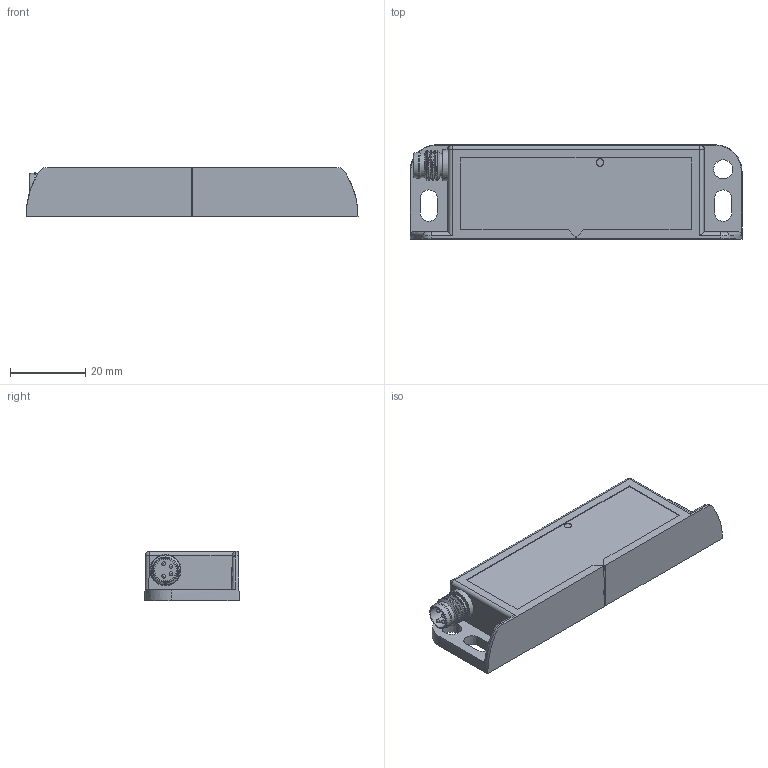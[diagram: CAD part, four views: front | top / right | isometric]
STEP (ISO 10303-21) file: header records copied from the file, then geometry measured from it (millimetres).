
FILE_DESCRIPTION(/* description */ (''),/* implementation_level */ '2;1');
FILE_NAME(/* name */ 'V:/a TO PERSON/Vilius/MC88/Catalogue/CADs/MC88CH2ORM5L.step',/* time_stamp */ '2020-10-27T09:42:58+02:00',/* author */ (''),/* organization */ (''),/* preprocessor_version */ 'ST-DEVELOPER v18.1',/* originating_system */ 'Autodesk Translation Framework v9.3.0.1241',/* authorisation */ '');
FILE_SCHEMA (('AUTOMOTIVE_DESIGN { 1 0 10303 214 3 1 1 }'));
Length unit declared in the file: millimetre
Products named in the file (2): MC88CH2ORM5L; m8_connector
Assembly tree (1 placements, depth 2):
  MC88CH2ORM5L
    m8_connector
Bounding box: 88 x 25 x 13 mm (x, y, z)
Volume: 23833.6 mm3; surface area: 15665.7 mm2
Topology: 8 solids, 8 shells, 184 faces, 465 edges, 301 vertices
Faces by surface type: plane 112, cylinder 43, cone 12, bspline 10, sphere 6, torus 1
Full cylindrical faces by diameter (mm): 1 x4, 2 x2, 5.8 x2, 6.259 x3, 6.44 x1, 6.5 x1, 6.744 x1, 6.937 x1, 7 x2, 7.044 x1, 7.884 x1, 8.25 x1
Entity records: 6591 total; most frequent: CARTESIAN_POINT 2040, ORIENTED_EDGE 922, DIRECTION 903, EDGE_CURVE 461, LINE 321, VECTOR 321, VERTEX_POINT 301, AXIS2_PLACEMENT_3D 291
